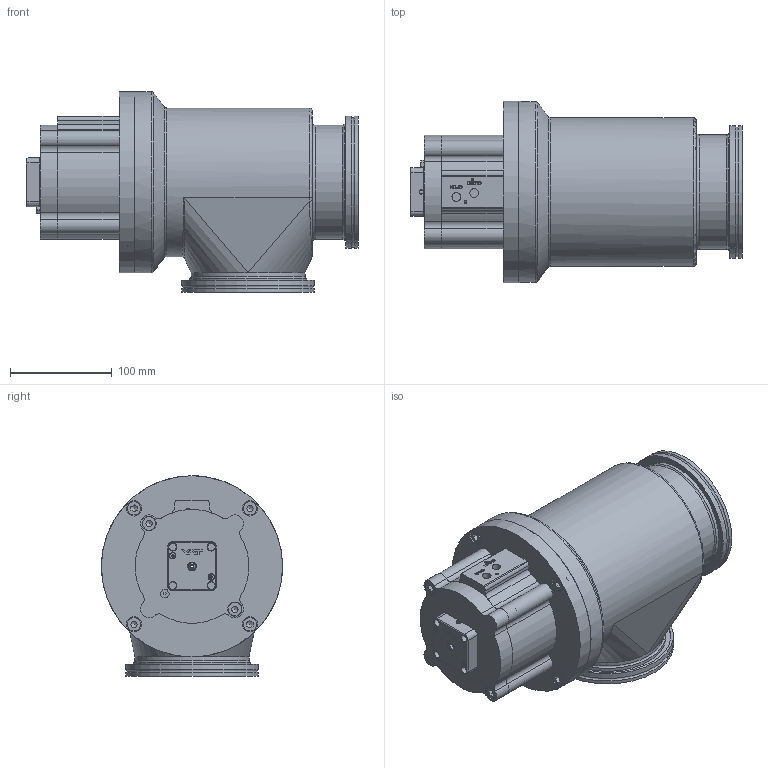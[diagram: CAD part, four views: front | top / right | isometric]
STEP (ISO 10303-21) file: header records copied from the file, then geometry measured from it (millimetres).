
FILE_DESCRIPTION(/* description */ (''),/* implementation_level */ '2;1');
FILE_NAME(/* name */ '1339640245_203.stp',/* time_stamp */ '2014-10-09T07:45:10+02:00',/* author */ (''),/* organization */ (''),/* preprocessor_version */ 'ST-DEVELOPER v11',/* originating_system */ 'SIEMENS PLM Software NX 7.5',/* authorisation */ '');
FILE_SCHEMA (('AP203_CONFIGURATION_CONTROLLED_3D_DESIGN_OF_MECHANICAL_PARTS_AND_ASSEMBLIES_MIM_LF'));
Length unit declared in the file: millimetre
Products named in the file (15): 233359; 236204_1.1; 518957_18258ID; n-6121-026.2; 517625_18267ID; 224847.1; 543750; n-7636-200.2; 542372; 228777; 476060; 239983.3; 518946_MODEL; 561077_MODEL; 705556
Assembly tree (20 placements, depth 3):
  705556
    476060
    228777  x4
    542372
    561077_MODEL
      517625_18267ID
      n-6121-026.2  x2
    n-7636-200.2
    518946_MODEL
      518957_18258ID
    543750
    239983.3
      236204_1.1  x2
      233359
    224847.1  x2
Bounding box: 326.11 x 178 x 197 mm (x, y, z)
Volume: 1826830.4 mm3; surface area: 452942.7 mm2
Topology: 29 solids, 29 shells, 814 faces, 2014 edges, 1309 vertices
Faces by surface type: plane 424, cylinder 229, cone 76, bspline 34, torus 30, extrusion 19, sphere 2
Full cylindrical faces by diameter (mm): 2.5 x5, 3 x7, 3.85 x2, 4 x1, 4.2 x2, 5 x1, 5.6 x2, 6.2 x2, 6.66 x6, 6.7 x6, 6.8 x8, 7.4 x1, 8 x13, 8.15 x2, 8.3 x6, 8.4 x1, 8.566 x2, 9 x4, 13 x6, 14 x2, 15 x6, 21 x1, 23.011 x3, 23.3 x2, 29.4 x2, 30 x1, 39.5 x1, 40 x1, 44.4 x1, 50 x1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
Entity records: 25380 total; most frequent: CARTESIAN_POINT 7171, DIRECTION 3285, ORIENTED_EDGE 3154, EDGE_CURVE 1577, AXIS2_PLACEMENT_3D 1262, VERTEX_POINT 1130, EDGE_LOOP 1014, VECTOR 761
